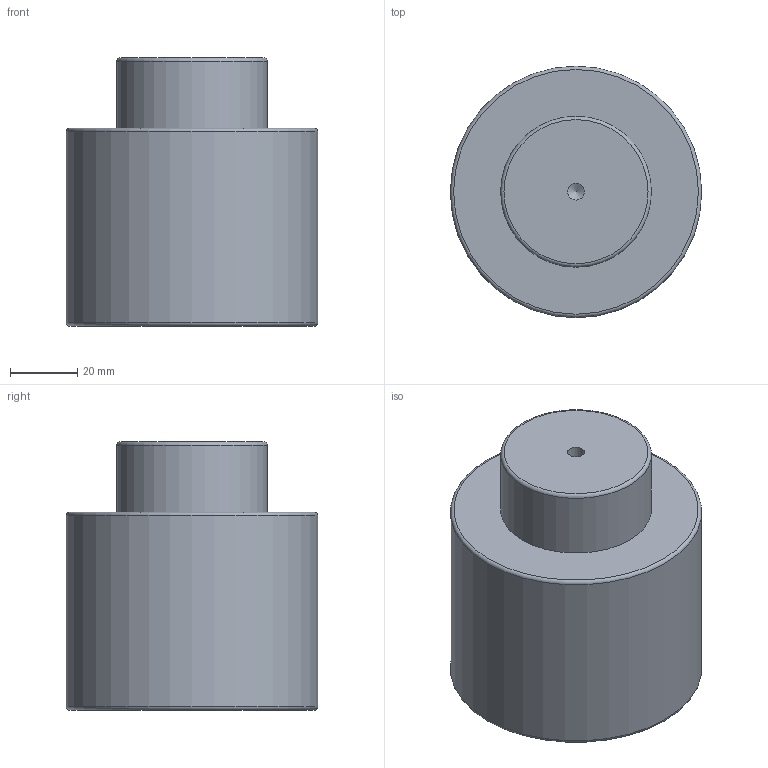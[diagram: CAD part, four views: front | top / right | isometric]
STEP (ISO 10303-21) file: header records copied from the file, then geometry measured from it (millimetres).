
FILE_DESCRIPTION(/* description */ (''),/* implementation_level */ '2;1');
FILE_NAME(/* name */ 'NV5-SMLX.75x20.stp',/* time_stamp */ '2018-08-31T16:08:29+02:00',/* author */ (''),/* organization */ (''),/* preprocessor_version */ 'ST-DEVELOPER v16',/* originating_system */ 'SIEMENS PLM Software NX 10.0',/* authorisation */ '');
FILE_SCHEMA (('AUTOMOTIVE_DESIGN { 1 0 10303 214 3 1 1 1 }'));
Length unit declared in the file: millimetre
Products named in the file (1): NV5-SMLX.75x20
Bounding box: 75 x 75 x 80 mm (x, y, z)
Volume: 291944.3 mm3; surface area: 26278.9 mm2
Topology: 1 solids, 1 shells, 12 faces, 24 edges, 15 vertices
Faces by surface type: cylinder 4, torus 3, plane 3, cone 2
Full cylindrical faces by diameter (mm): 5 x1, 10.3 x1, 45 x1, 75 x1
Entity records: 266 total; most frequent: DIRECTION 48, CARTESIAN_POINT 37, FACE_BOUND 24, AXIS2_PLACEMENT_3D 24, EDGE_LOOP 22, ORIENTED_EDGE 22, VERTEX_POINT 13, ADVANCED_FACE 12
